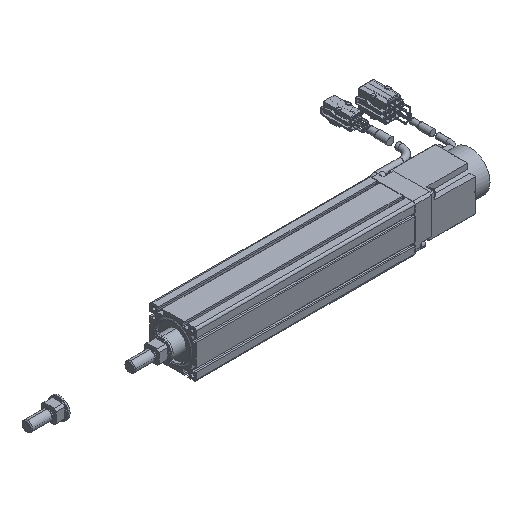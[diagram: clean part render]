
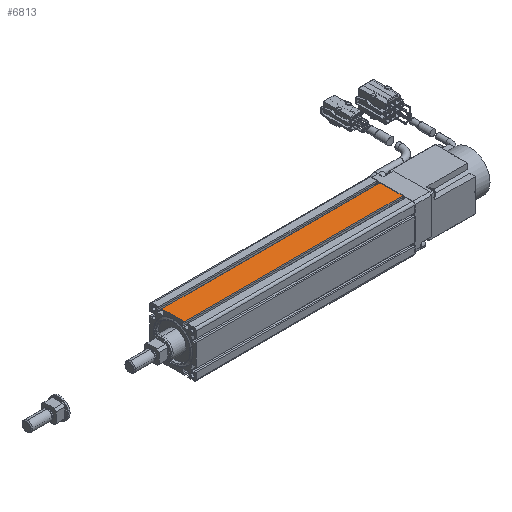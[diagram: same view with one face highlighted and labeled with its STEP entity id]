
A CAD part, isometric view. The second image highlights one B-rep face of the part: STEP entity #6813.
In plain terms, the highlighted planar face has unit normal (0, 0, 1).
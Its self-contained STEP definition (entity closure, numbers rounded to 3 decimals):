
#1445=DIRECTION('',(-1.,0.,0.));
#1446=VECTOR('',#1445,212.5);
#1447=CARTESIAN_POINT('',(-16.5,10.85,22.5));
#1448=LINE('',#1447,#1446);
#1453=DIRECTION('',(0.,-1.,0.));
#1454=VECTOR('',#1453,21.7);
#1455=CARTESIAN_POINT('',(-229.,10.85,22.5));
#1456=LINE('',#1455,#1454);
#1457=DIRECTION('',(0.,1.,0.));
#1458=VECTOR('',#1457,21.7);
#1459=CARTESIAN_POINT('',(-16.5,-10.85,22.5));
#1460=LINE('',#1459,#1458);
#1465=DIRECTION('',(1.,0.,0.));
#1466=VECTOR('',#1465,212.5);
#1467=CARTESIAN_POINT('',(-229.,-10.85,22.5));
#1468=LINE('',#1467,#1466);
#3821=CARTESIAN_POINT('',(-16.5,-10.85,22.5));
#3822=CARTESIAN_POINT('',(-16.5,10.85,22.5));
#3823=VERTEX_POINT('',#3821);
#3824=VERTEX_POINT('',#3822);
#3963=CARTESIAN_POINT('',(-229.,-10.85,22.5));
#3964=VERTEX_POINT('',#3963);
#3965=CARTESIAN_POINT('',(-229.,10.85,22.5));
#3966=VERTEX_POINT('',#3965);
#6801=CARTESIAN_POINT('',(-122.75,0.,22.5));
#6802=DIRECTION('',(0.,0.,1.));
#6803=DIRECTION('',(0.,-1.,0.));
#6804=AXIS2_PLACEMENT_3D('',#6801,#6802,#6803);
#6805=PLANE('',#6804);
#6807=ORIENTED_EDGE('',*,*,#6806,.F.);
#6808=ORIENTED_EDGE('',*,*,#6529,.F.);
#6809=ORIENTED_EDGE('',*,*,#6794,.F.);
#6810=ORIENTED_EDGE('',*,*,#5844,.F.);
#6811=EDGE_LOOP('',(#6807,#6808,#6809,#6810));
#6812=FACE_OUTER_BOUND('',#6811,.F.);
#6813=ADVANCED_FACE('',(#6812),#6805,.T.);
#5844=EDGE_CURVE('',#3823,#3824,#1460,.T.);
#6529=EDGE_CURVE('',#3966,#3964,#1456,.T.);
#6794=EDGE_CURVE('',#3824,#3966,#1448,.T.);
#6806=EDGE_CURVE('',#3964,#3823,#1468,.T.);
